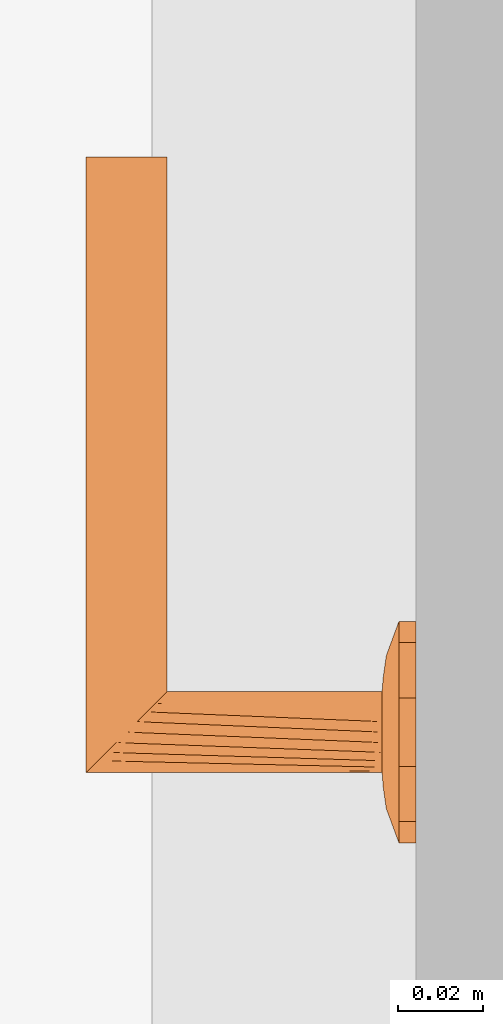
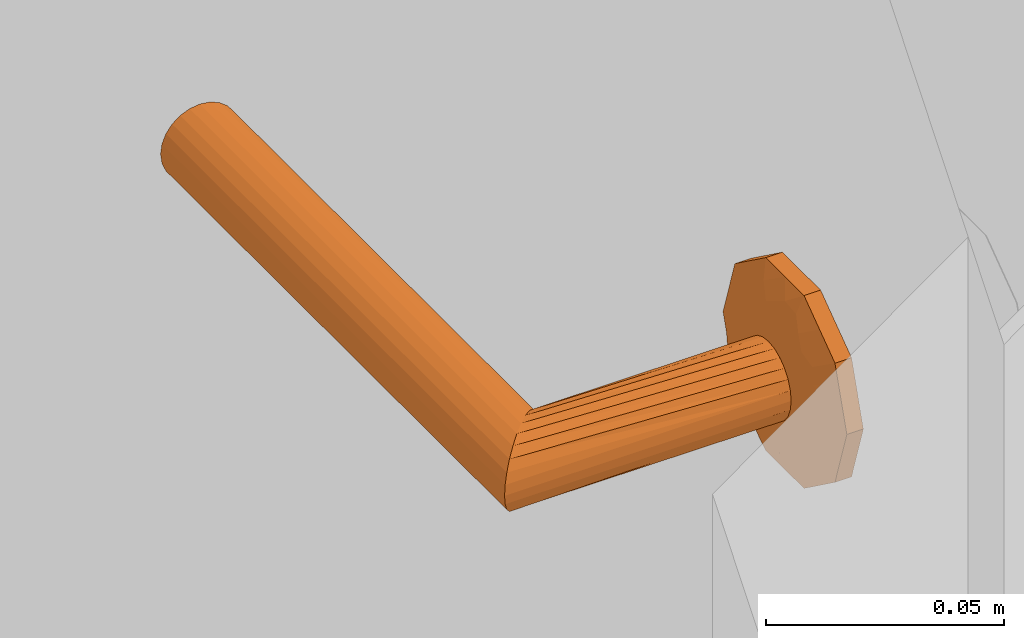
# One storey, part 30 of 55: 1 proxy.
"""IFC2X3 building model written with IfcOpenShell, lengths in millimetres."""

from ifc_helpers import new_model, entity, si_unit, converted_unit, direction, frame, origin, place, context, subcontext, project, spatial, faceted_brep, source, transform, mapped, material, type_object, type_shapes, element, save


model = new_model("IFC2X3")

# Units and contexts
model_context = context("Model", 3, precision=0.01, world=origin(), true_north=direction((6.123233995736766e-17, 1.0)))
plan_context = context("Plan", 3, precision=0.01, world=origin(), true_north=direction((6.123233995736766e-17, 1.0)))
body_context = subcontext(model_context, "Body", "Model", "MODEL_VIEW")
ifc_project = project(units=[si_unit("LENGTHUNIT", "METRE", prefix="MILLI"), converted_unit("PLANEANGLEUNIT", "DEGREE", entity("IfcPlaneAngleMeasure", 0.017453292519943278), si_unit("PLANEANGLEUNIT", "RADIAN"), dimensions=[0, 0, 0, 0, 0, 0, 0]), si_unit("AREAUNIT", "SQUARE_METRE")], contexts=[model_context, plan_context])

# Site, building, storey
site_placement = place(None, origin())
site = spatial("IfcSite", under=ifc_project, at=site_placement, Name="Default", CompositionType="ELEMENT")
building_placement = place(site_placement, origin())
building = spatial("IfcBuilding", under=site, at=building_placement, CompositionType="ELEMENT")
storey_placement = place(building_placement, origin())
storey = spatial("IfcBuildingStorey", under=building, at=storey_placement, Name="1K", CompositionType="ELEMENT", Elevation=0.0)

# Proxy
ifc_material = material(Name="<Unnamed>")
building_element_proxy_type = type_object("IfcBuildingElementProxyType", Name="Door-handle_Lever_ABLOY_INOXI_3-19ss-002_RT:Default", PredefinedType="NOTDEFINED", material=ifc_material)
shared_shape = source(origin(), body_context, "Body", "Brep", [
    faceted_brep([(0.0, 0.0, 0.0), (21.034441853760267, -15.282416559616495, 0.0), (14.534441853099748, -20.00494299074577, 0.0), (8.034441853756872, -24.72746942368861, 0.0), (0.0, -24.72746942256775, 0.0), (23.51722092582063, -7.6412082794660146, 0.0), (26.0, 0.0, 0.0), (-8.034441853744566, -24.727469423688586, 0.0), (-14.534441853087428, -20.00494299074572, 0.0), (-21.03444185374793, -15.282416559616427, 0.0), (-23.517220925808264, -7.641208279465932, 0.0), (-26.0, 0.0, 0.0), (-23.517220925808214, 7.641208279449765, 0.0), (23.517220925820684, 7.641208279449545, 0.0), (21.034441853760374, 15.282416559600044, 0.0), (14.53444185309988, 20.00494299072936, 0.0), (8.034441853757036, 24.72746942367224, 0.0), (-21.034441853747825, 15.282416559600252, 0.0), (-14.53444185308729, 20.004942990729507, 0.0), (-8.0344418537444, 24.72746942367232, 0.0), (0.0, 24.72746942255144, 0.0), (0.0, 0.0, 8.0), (4.7500000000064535, -8.227241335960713, 8.0), (5.937500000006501, -6.170431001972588, 8.0), (7.125000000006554, -4.113620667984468, 8.0), (8.312500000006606, -2.0568103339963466, 8.0), (9.500000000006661, 0.0, 8.0), (8.312500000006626, 2.056810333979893, 8.0), (2.3750000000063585, -8.227241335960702, 8.0), (0.0, -8.227241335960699, 8.0), (-2.3749999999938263, -8.227241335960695, 8.0), (-4.749999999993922, -8.227241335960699, 8.0), (-5.937499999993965, -6.170431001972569, 8.0), (-7.124999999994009, -4.113620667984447, 8.0), (-8.312499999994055, -2.056810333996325, 8.0), (-9.499999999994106, 0.0, 8.0), (7.125000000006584, 4.113620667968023, 8.0), (5.937500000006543, 6.170431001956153, 8.0), (4.750000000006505, 8.227241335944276, 8.0), (2.3750000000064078, 8.22724133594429, 8.0), (-8.31249999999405, 2.0568103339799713, 8.0), (-7.12499999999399, 4.113620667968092, 8.0), (-5.9374999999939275, 6.170431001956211, 8.0), (-4.74999999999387, 8.227241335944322, 8.0), (0.0, 8.227241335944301, 8.0), (-2.374999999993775, 8.227241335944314, 8.0), (-22.488765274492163, -10.806469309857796, 4.030771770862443), (-16.663919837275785, -7.932665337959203, 6.877259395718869), (-20.643071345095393, -6.292822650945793, 5.929480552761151), (-12.50457926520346, -5.179566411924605, 7.774932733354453), (-16.764060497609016, -3.820257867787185, 7.1747985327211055), (-9.071726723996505, -10.311606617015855, 7.7520782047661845), (-11.963426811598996, -8.625290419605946, 7.618343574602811), (-11.979136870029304, -13.678312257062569, 6.945778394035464), (5.7585542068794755, -20.96753300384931, 5.871476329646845), (0.0, -24.72746942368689, 4.030771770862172), (8.03444185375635, -24.727469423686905, 4.030771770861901), (16.66391982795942, -7.932665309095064, 6.877259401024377), (22.488765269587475, -10.806469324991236, 4.03077177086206), (20.64307133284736, -6.29282258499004, 5.929480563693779), (14.534441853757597, -20.004942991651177, 4.030771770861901), (9.499431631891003, -18.64368355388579, 6.154325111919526), (-15.783149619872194, -11.991003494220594, 6.50080018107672), (-21.034441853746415, -15.282416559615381, 4.030771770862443), (-14.53444185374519, -20.00494299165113, 4.030771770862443), (-23.012042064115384, 0.0, 5.135401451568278), (-23.943088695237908, -6.330522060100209, 4.030771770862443), (11.96342678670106, -8.62529049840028, 7.618343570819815), (12.504579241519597, -5.179566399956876, 7.774932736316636), (16.764060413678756, -3.8202578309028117, 7.17479855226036), (15.783149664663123, -11.991003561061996, 6.50080015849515), (17.985351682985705, 0.0, 6.993737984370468), (23.012042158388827, 0.0, 5.135401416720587), (8.661516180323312, -10.478936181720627, 7.768126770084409), (-8.03444185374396, -24.727469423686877, 4.030771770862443), (-3.3573143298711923, -21.197247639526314, 5.971427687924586), (-9.941915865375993, -17.061976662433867, 6.522757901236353), (-5.973257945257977, -16.430139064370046, 7.110979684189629), (-7.711266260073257, -12.760344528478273, 7.594456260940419), (11.979136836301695, -13.678312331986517, 6.945778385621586), (7.511307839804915, -13.358932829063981, 7.529187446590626), (5.953298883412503, -16.50608604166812, 7.096344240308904), (-1.5654593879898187, -15.307443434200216, 7.519134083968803), (-7.784980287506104, -20.476295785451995, 5.812837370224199), (2.8135289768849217, -17.76392260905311, 6.993737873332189), (-17.98535168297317, 0.0, 6.993737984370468), (-26.0, 0.0, 4.030771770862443), (-23.51722092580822, -7.641208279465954, 4.030771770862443), (23.943088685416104, -6.33052209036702, 4.030771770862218), (24.308823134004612, -5.204907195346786, 4.030771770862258), (26.0, 0.0, 4.030771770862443), (21.03444185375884, -15.282416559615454, 4.030771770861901), (22.617646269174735, -10.40981439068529, 4.030771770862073), (22.488765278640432, 10.806469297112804, 4.030771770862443), (16.66391984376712, 7.932665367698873, 6.877259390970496), (20.643071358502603, 6.292822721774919, 5.929480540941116), (12.504579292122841, 5.179566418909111, 7.774932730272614), (16.764060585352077, 3.8202579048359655, 7.174798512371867), (9.07172672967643, 10.31160659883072, 7.752078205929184), (11.963426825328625, 8.62529034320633, 7.618343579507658), (11.979136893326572, 13.67831220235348, 6.9457784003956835), (-5.758554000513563, 20.96753314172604, 5.8714763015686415), (0.0, 24.72746942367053, 4.030771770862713), (-8.03444185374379, 24.72746942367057, 4.030771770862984), (-16.663919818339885, 7.932665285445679, 6.877259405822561), (-22.48876526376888, 10.806469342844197, 4.030771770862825), (-20.643071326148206, 6.2928225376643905, 5.929480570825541), (-14.534441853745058, 20.004942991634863, 4.030771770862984), (-9.499431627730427, 18.643683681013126, 6.154325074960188), (15.783149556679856, 11.991003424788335, 6.5008002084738), (21.03444185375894, 15.282416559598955, 4.030771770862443), (14.534441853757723, 20.004942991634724, 4.030771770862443), (23.943088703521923, 6.330522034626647, 4.030771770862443), (-11.96342675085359, 8.625290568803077, 7.618343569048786), (-12.504579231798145, 5.179566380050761, 7.77493273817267), (-16.764060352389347, 3.820257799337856, 7.174798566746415), (-15.78314967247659, 11.991003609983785, 6.500800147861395), (-8.661516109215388, 10.478936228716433, 7.768126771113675), (8.034441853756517, 24.727469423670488, 4.030771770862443), (3.3573144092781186, 21.197247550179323, 5.971427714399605), (9.941915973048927, 17.061976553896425, 6.522757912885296), (5.9732581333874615, 16.430139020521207, 7.110979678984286), (7.711266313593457, 12.760344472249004, 7.5944562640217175), (-11.979136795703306, 13.678312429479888, 6.945778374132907), (-7.511307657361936, 13.358932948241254, 7.5291874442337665), (-5.9532988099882, 16.50608628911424, 7.096344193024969), (1.5654596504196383, 15.3074431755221, 7.519134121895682), (7.784980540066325, 20.476295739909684, 5.812837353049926), (-2.81352881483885, 17.76392263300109, 6.993737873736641), (23.51722092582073, 7.6412082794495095, 4.030771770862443), (-23.94308867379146, 6.330522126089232, 4.030771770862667), (-24.308823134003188, 5.20490719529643, 4.030771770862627), (-21.034441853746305, 15.282416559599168, 4.030771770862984), (-22.617646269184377, 10.409814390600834, 4.0307717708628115)], [[[0, 1, 2]], [[0, 2, 3]], [[0, 3, 4]], [[0, 5, 1]], [[0, 6, 5]], [[0, 4, 7]], [[0, 7, 8]], [[0, 8, 9]], [[0, 9, 10]], [[0, 10, 11]], [[0, 11, 12]], [[0, 13, 6]], [[0, 14, 13]], [[0, 15, 14]], [[0, 16, 15]], [[0, 12, 17]], [[0, 17, 18]], [[0, 18, 19]], [[0, 19, 20]], [[0, 20, 16]], [[21, 22, 23]], [[21, 23, 24]], [[21, 24, 25]], [[21, 25, 26]], [[21, 26, 27]], [[21, 28, 22]], [[21, 29, 28]], [[21, 30, 29]], [[21, 31, 30]], [[21, 32, 31]], [[21, 33, 32]], [[21, 34, 33]], [[21, 35, 34]], [[21, 27, 36]], [[21, 36, 37]], [[21, 37, 38]], [[21, 38, 39]], [[21, 40, 35]], [[21, 41, 40]], [[21, 42, 41]], [[21, 43, 42]], [[21, 39, 44]], [[21, 44, 45]], [[21, 45, 43]], [[46, 47, 48]], [[47, 49, 50]], [[49, 33, 34]], [[51, 52, 53]], [[49, 52, 33]], [[48, 47, 50]], [[54, 55, 56]], [[57, 58, 59]], [[56, 60, 61]], [[62, 63, 64]], [[65, 66, 48]], [[67, 57, 68]], [[68, 69, 25]], [[57, 67, 70]], [[69, 26, 25]], [[62, 53, 52]], [[71, 69, 72]], [[67, 23, 73]], [[74, 55, 75]], [[76, 77, 78]], [[79, 60, 70]], [[69, 59, 72]], [[80, 81, 61]], [[77, 30, 78]], [[82, 30, 77]], [[28, 80, 22]], [[77, 83, 75]], [[75, 82, 77]], [[55, 84, 75]], [[85, 50, 35]], [[24, 68, 25]], [[82, 84, 29]], [[84, 82, 75]], [[31, 78, 30]], [[82, 29, 30]], [[34, 35, 50]], [[52, 49, 47]], [[62, 52, 47]], [[34, 50, 49]], [[53, 78, 51]], [[32, 33, 52]], [[85, 65, 50]], [[66, 65, 86]], [[67, 68, 24]], [[77, 76, 83]], [[65, 48, 50]], [[63, 62, 46]], [[48, 66, 87, 46]], [[62, 47, 46]], [[69, 68, 57]], [[80, 73, 22]], [[70, 67, 79]], [[67, 24, 23]], [[72, 88, 89, 90]], [[69, 71, 26]], [[59, 69, 57]], [[61, 60, 79]], [[62, 64, 53]], [[91, 58, 70]], [[72, 59, 88]], [[57, 70, 58]], [[59, 58, 92]], [[80, 61, 79]], [[91, 70, 60]], [[61, 81, 54]], [[73, 80, 79]], [[28, 84, 81]], [[67, 73, 79]], [[29, 84, 28]], [[22, 73, 23]], [[51, 31, 32]], [[76, 78, 53]], [[53, 64, 76]], [[83, 64, 74]], [[64, 83, 76]], [[75, 83, 74]], [[31, 51, 78]], [[52, 51, 32]], [[28, 81, 80]], [[54, 81, 84]], [[55, 54, 84]], [[61, 54, 56]], [[93, 94, 95]], [[94, 96, 97]], [[96, 36, 27]], [[98, 99, 100]], [[96, 99, 36]], [[95, 94, 97]], [[101, 102, 103]], [[104, 105, 106]], [[103, 107, 108]], [[109, 110, 111]], [[72, 112, 95]], [[113, 104, 114]], [[114, 115, 40]], [[104, 113, 116]], [[115, 35, 40]], [[109, 100, 99]], [[85, 115, 65]], [[113, 42, 117]], [[118, 102, 119]], [[120, 121, 122]], [[123, 107, 116]], [[115, 106, 65]], [[124, 125, 108]], [[121, 39, 122]], [[126, 39, 121]], [[45, 124, 43]], [[121, 127, 119]], [[119, 126, 121]], [[102, 128, 119]], [[71, 97, 26]], [[41, 114, 40]], [[126, 128, 44]], [[128, 126, 119]], [[38, 122, 39]], [[126, 44, 39]], [[27, 26, 97]], [[99, 96, 94]], [[109, 99, 94]], [[27, 97, 96]], [[100, 122, 98]], [[37, 36, 99]], [[71, 72, 97]], [[112, 72, 90]], [[113, 114, 41]], [[121, 120, 127]], [[72, 95, 97]], [[110, 109, 93]], [[95, 112, 129, 93]], [[109, 94, 93]], [[115, 114, 104]], [[124, 117, 43]], [[116, 113, 123]], [[113, 41, 42]], [[65, 130, 131, 86]], [[115, 85, 35]], [[106, 115, 104]], [[108, 107, 123]], [[109, 111, 100]], [[132, 105, 116]], [[65, 106, 130]], [[104, 116, 105]], [[106, 105, 133]], [[124, 108, 123]], [[132, 116, 107]], [[108, 125, 101]], [[117, 124, 123]], [[45, 128, 125]], [[113, 117, 123]], [[44, 128, 45]], [[43, 117, 42]], [[98, 38, 37]], [[120, 122, 100]], [[100, 111, 120]], [[127, 111, 118]], [[111, 127, 120]], [[119, 127, 118]], [[38, 98, 122]], [[99, 98, 37]], [[45, 125, 124]], [[101, 125, 128]], [[102, 101, 128]], [[108, 101, 103]], [[7, 74, 64, 63, 9, 8]], [[10, 9, 63, 46, 87, 66, 86, 11]], [[6, 90, 89, 88, 92, 1, 5]], [[1, 58, 91]], [[74, 7, 4, 3, 56, 55]], [[60, 56, 3, 2, 1, 91]], [[1, 92, 58]], [[14, 110, 93, 129, 112, 90, 6, 13]], [[111, 110, 14, 15, 16, 118]], [[11, 86, 131, 130, 133, 17, 12]], [[17, 105, 132]], [[118, 16, 20, 19, 103, 102]], [[107, 103, 19, 18, 17, 132]], [[17, 133, 105]], [[59, 92, 88]], [[106, 133, 130]]]),
    faceted_brep([(4.7499999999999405, -8.22724133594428, 8.0), (2.4587809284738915, -9.176295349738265, 8.0), (0.0, -9.499999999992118, 8.0), (-2.4587809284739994, -9.176295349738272, 8.0), (-4.7500000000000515, -8.227241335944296, 8.0), (-6.717514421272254, -6.717514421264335, 8.0), (-8.227241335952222, -4.74999999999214, 8.0), (-9.176295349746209, -2.4587809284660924, 8.0), (-9.500000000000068, 0.0, 8.0), (-9.176295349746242, 2.458780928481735, 8.0), (-8.227241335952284, 4.750000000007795, 8.0), (-6.717514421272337, 6.717514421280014, 8.0), (-4.750000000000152, 8.227241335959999, 8.0), (-2.4587809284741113, 9.176295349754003, 8.0), (0.0, 9.500000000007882, 8.0), (2.4587809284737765, 9.176295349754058, 8.0), (4.7499999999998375, 8.227241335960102, 8.0), (6.717514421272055, 6.717514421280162, 8.0), (8.22724133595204, 4.75000000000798, 8.0), (9.17629534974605, 2.458780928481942, 8.0), (9.499999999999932, 0.0, 8.0), (9.17629534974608, -2.458780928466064, 8.0), (8.227241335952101, -4.749999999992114, 8.0), (6.717514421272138, -6.7175144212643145, 8.0), (-8.227241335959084, 4.7499999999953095, 59.772758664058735), (-6.717514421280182, 6.7175144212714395, 61.282485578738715), (-9.176295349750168, 2.458780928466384, 58.82370465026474), (-4.750000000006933, 8.227241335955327, 63.25000000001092), (-2.4587809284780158, 9.176295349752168, 65.54121907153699), (-9.500000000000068, 0.0, 58.50000000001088), (0.0, 9.50000000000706, 68.0), (4.750000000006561, 8.227241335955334, 72.75000000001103), (2.4587809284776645, 9.17629534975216, 70.45878092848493), (6.717514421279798, 6.7175144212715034, 74.71751442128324), (8.22724133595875, 4.749999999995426, 76.22724133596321), (9.17629534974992, 2.458780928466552, 77.17629534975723), (9.499999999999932, 0.0, 77.50000000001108), (9.176295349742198, -2.4587809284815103, 77.1762953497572), (8.227241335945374, -4.750000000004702, 76.22724133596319), (6.7175144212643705, -6.717514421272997, 74.7175144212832), (4.749999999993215, -8.227241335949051, 72.75000000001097), (2.4587809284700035, -9.17629534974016, 70.45878092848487), (0.0, -9.49999999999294, 68.0), (-2.4587809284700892, -9.176295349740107, 65.54121907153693), (-4.749999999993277, -8.227241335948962, 63.250000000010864), (-6.717514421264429, -6.717514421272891, 61.282485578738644), (-9.176295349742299, -2.458780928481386, 58.8237046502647), (-8.227241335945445, -4.750000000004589, 59.77275866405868), (-135.0, -9.176295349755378, 70.4587809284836), (-135.0, -8.227241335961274, 72.75000000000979), (-135.0, -6.717514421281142, 74.71751442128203), (-135.0, -4.750000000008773, 76.22724133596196), (-135.0, -2.4587809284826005, 77.17629534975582), (-135.0, 0.0, 77.5000000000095), (-135.0, 2.4587809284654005, 77.17629534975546), (-135.0, 4.749999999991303, 76.22724133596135), (-135.0, 6.717514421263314, 74.71751442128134), (-135.0, 8.227241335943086, 72.75000000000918), (-135.0, 9.17629534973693, 70.45878092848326), (-135.0, 9.499999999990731, 68.0), (-135.0, 9.17629534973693, 65.54121907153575), (-135.0, 8.227241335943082, 63.250000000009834), (-135.0, 6.717514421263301, 61.28248557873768), (-135.0, 4.749999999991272, 59.772758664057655), (-135.0, 2.458780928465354, 58.823704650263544), (-135.0, 0.0, 58.50000000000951), (-135.0, -2.458780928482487, 58.82370465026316), (-135.0, -4.750000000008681, 59.772758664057), (-135.0, -6.7175144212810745, 61.28248557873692), (-135.0, -8.227241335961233, 63.25000000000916), (-135.0, -9.176295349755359, 65.54121907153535), (-135.0, -9.500000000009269, 68.0)], [[[0, 1, 2, 3, 4, 5, 6, 7, 8, 9, 10, 11, 12, 13, 14, 15, 16, 17, 18, 19, 20, 21, 22, 23]], [[24, 25, 11, 10]], [[26, 24, 10, 9]], [[14, 27, 28]], [[13, 27, 14]], [[25, 27, 13]], [[29, 26, 9, 8]], [[12, 11, 25]], [[25, 13, 12]], [[28, 30, 15]], [[31, 17, 32]], [[33, 18, 31]], [[19, 34, 35]], [[33, 34, 19]], [[20, 19, 35, 36]], [[16, 15, 30]], [[14, 28, 15]], [[19, 18, 33]], [[17, 31, 18]], [[17, 16, 32]], [[30, 32, 16]], [[20, 36, 37, 21]], [[38, 21, 37]], [[22, 39, 40]], [[38, 39, 21]], [[23, 40, 41]], [[39, 22, 21]], [[1, 42, 43]], [[42, 1, 0]], [[23, 41, 0]], [[23, 22, 40]], [[41, 42, 0]], [[44, 45, 3]], [[43, 44, 2]], [[46, 29, 8, 7]], [[47, 46, 7, 6]], [[45, 47, 6, 5]], [[45, 4, 3]], [[3, 2, 44]], [[5, 4, 45]], [[43, 2, 1]], [[48, 49, 50, 51, 52, 53, 54, 55, 56, 57, 58, 59, 60, 61, 62, 63, 64, 65, 66, 67, 68, 69, 70, 71]], [[64, 63, 24, 26]], [[65, 64, 26, 29]], [[61, 60, 28, 27]], [[62, 61, 27, 25]], [[63, 62, 25, 24]], [[59, 30, 28, 60]], [[57, 56, 33, 31]], [[58, 57, 31, 32]], [[54, 53, 36, 35]], [[55, 54, 35, 34]], [[56, 55, 34, 33]], [[32, 30, 59, 58]], [[52, 51, 38, 37]], [[53, 52, 37, 36]], [[49, 48, 41, 40]], [[50, 49, 40, 39]], [[51, 50, 39, 38]], [[42, 41, 48, 71]], [[69, 68, 45, 44]], [[70, 69, 44, 43]], [[66, 65, 29, 46]], [[67, 66, 46, 47]], [[68, 67, 47, 45]], [[42, 71, 70, 43]]]),
])
type_shapes(building_element_proxy_type, [shared_shape])
proxy_placement = place(storey_placement, frame((3309.9935349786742, 5309.998433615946, 1000.0), z_axis=(-1.0, 0.0, 0.0), x_axis=(0.0, -1.0, 0.0)))
element("IfcBuildingElementProxy", 1, at=proxy_placement, inside=storey, type_object=building_element_proxy_type, material=ifc_material, Name="Door-handle_Lever_ABLOY_INOXI_3-19ss-002_RT:Default", ObjectType="Door-handle_Lever_ABLOY_INOXI_3-19ss-002_RT:Default", context=body_context, shape_type="MappedRepresentation", body=[
    mapped(shared_shape, transform((0.0, 0.0, 0.0), scale=1.0)),
])

save(model, "model.ifc")
